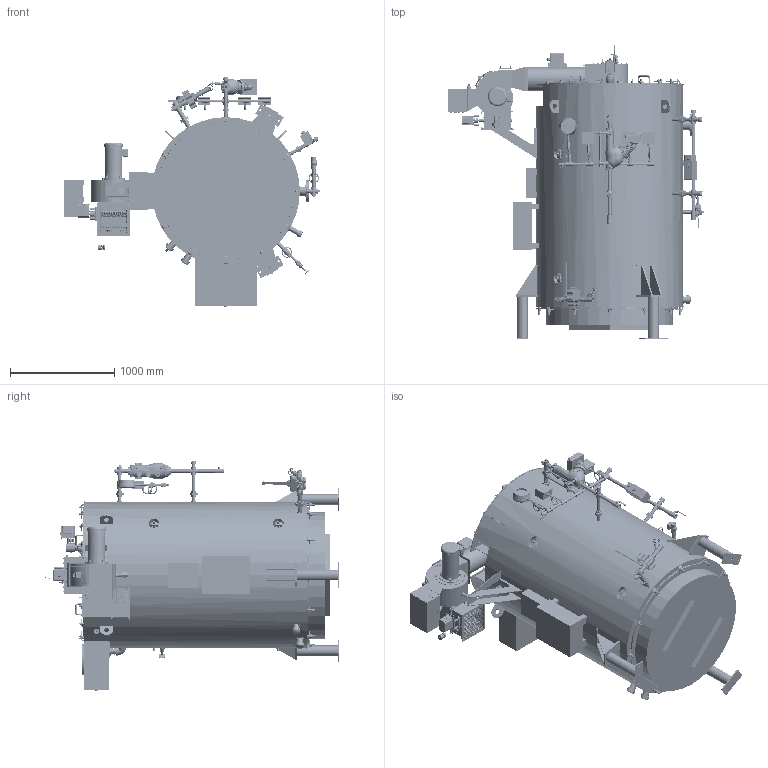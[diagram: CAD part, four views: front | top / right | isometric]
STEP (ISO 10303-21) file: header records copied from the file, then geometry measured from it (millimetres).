
FILE_DESCRIPTION(/* description */ (''),/* implementation_level */ '2;1');
FILE_NAME(/* name */ 'N:\MARKETING DRAWINGS\DRAWINGS FOR CHRISTINA\UTE\DVFT-60HP-1.stp',/* time_stamp */ '2021-08-04T10:35:13-05:00',/* author */ ('bsherraden'),/* organization */ (''),/* preprocessor_version */ 'ST-DEVELOPER v18.1',/* originating_system */ 'Autodesk Inventor 2022',/* authorisation */ '');
FILE_SCHEMA (('AUTOMOTIVE_DESIGN { 1 0 10303 214 3 1 1 }'));
Products named in the file (116): DVFT-60HP; SHELL_60; JACKET_60; BOTTOM LID RING_60; BOTTOM LID_60; BURNER MOUNT_60; SMOKEBOX RING_60; STACK_60; FURNACE ASSEMBLY_60; FURNACE SHELL_60; LOWER TUBESHEET_60; MUD RING_60; TURNAROUND SHELL_45; UPPER TUBESHEET_60; STACK ASSEMBLY; SIDE PLATE; FRONT PLATE; BEVEL PLATE; ASME B16.11 Coupling - Class 3000 1_2; SUPPORT Assembly_60; LEG PLATE_60; GUSSET PLATE_60; LEG ASSEMBLY_60; BASE PLATE; TUBE; BOTTOM PLATE_60; TOP PLATE_60; LEG ATTACH PLATE_60; GUSSET PLATE_60_1; HANDHOLE; HANDHOLE RING; HANDHOLE PLATE; HANDHOLE CRAB; ASME B16.3 Reducing Tee - Class 300 1 x 1 x 3_4; GAUGE GLASS; .75 UNION; ASME B16.11 Tee Threaded - Class 2000 3_4; .25 INCH BALL VALVE; .25 IN SIPHON LOOP; CONTROLS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
Assembly tree (286 placements, depth 3):
  DVFT-60HP
    SHELL_60
    JACKET_60
    BOTTOM LID RING_60
    BOTTOM LID_60
    BURNER MOUNT_60
    SMOKEBOX RING_60
    STACK_60
    FURNACE ASSEMBLY_60
      FURNACE SHELL_60
      LOWER TUBESHEET_60
      MUD RING_60
      TURNAROUND SHELL_45
      UPPER TUBESHEET_60
    STACK ASSEMBLY
      SIDE PLATE
      FRONT PLATE
      BEVEL PLATE  x2
      ASME B16.11 Coupling - Class 3000 1_2
    SUPPORT Assembly_60
      LEG PLATE_60
      LEG ATTACH PLATE_60
      GUSSET PLATE_60  x2
    LEG ASSEMBLY_60  x3
      BASE PLATE
      GUSSET PLATE_60_1
      TUBE
      BOTTOM PLATE_60
      TOP PLATE_60
      LEG ATTACH PLATE_60
    HANDHOLE RING  x2
    HANDHOLE PLATE  x2
    HANDHOLE CRAB  x2
    HANDHOLE  x2
      HANDHOLE RING
      HANDHOLE PLATE
      HANDHOLE CRAB
    1 UNION  x5
    ASME B16.3 Reducing Tee - Class 300 1 x 1 x 3_4
    ASME B16.11 Cross Threaded - Class 2000 1  x5
    1 INCH BALL VALVE  x2
    ASME B16.11 Square Head Plug 1  x4
    GAUGE GLASS
    .75 UNION
    ASME B16.11 Tee Threaded - Class 2000 3_4  x5
    .25 INCH BALL VALVE  x2
    .25 IN SIPHON LOOP  x4
    CONTROLS  x3
    PRESSURE GAUGE
    MM 157s
      241160
      239680
      223200  x8
      247043
      240400
    ANSI_ASME B36.19M Pipe with Threaded Ends 3_4 - Schedule 80S - 6  x4
    DIN EN 10242 Reducing Bushing N4 II 1_2 x 1_4  x5
    ANSI_ASME B36.19M Pipe with Threaded Ends 3_4 - Schedule 80S - 2.5
    ANSI_ASME B36.19M Pipe with Threaded Ends 3_4 - Schedule 80S - 10.125
    ANSI_ASME B36.19M Pipe with Threaded Ends 1 - Schedule 80S - 2  x8
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Bounding box: 2456.93 x 2827.22 x 2208.85 mm (x, y, z)
Volume: 776120486.4 mm3; surface area: 80990385.4 mm2
Topology: 694 solids, 720 shells, 21483 faces, 53621 edges, 34228 vertices
Faces by surface type: plane 9811, cylinder 5895, cone 2969, bspline 1896, torus 565, sphere 347
Full cylindrical faces by diameter (mm): 1.984 x4, 2.019 x1, 2.286 x12, 2.381 x10, 2.474 x60, 2.489 x4, 2.718 x2, 3.091 x92, 3.175 x14, 3.251 x4, 3.306 x72, 3.505 x54, 3.658 x7, 3.734 x25, 3.785 x1, 3.81 x5, 4 x99, 4.039 x24, 4.166 x68, 4.2 x16, 4.216 x8, 4.369 x10, 4.445 x2, 4.521 x4, 4.572 x1, 4.701 x72, 4.762 x5, 4.763 x3, 4.775 x3, 4.826 x134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
Entity records: 1010108 total; most frequent: CARTESIAN_POINT 558197, ORIENTED_EDGE 94841, DIRECTION 89878, EDGE_CURVE 47495, AXIS2_PLACEMENT_3D 33619, VERTEX_POINT 30581, LINE 22640, VECTOR 22640
